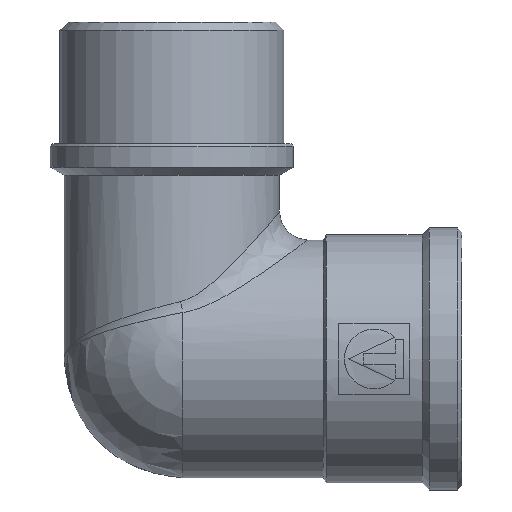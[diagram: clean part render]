
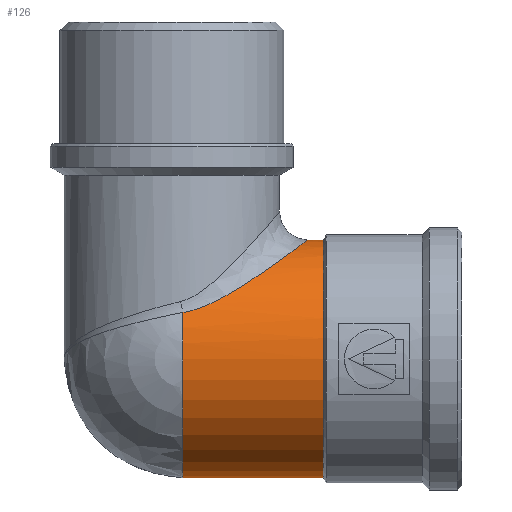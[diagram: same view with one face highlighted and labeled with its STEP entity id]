
A CAD part, left-side view. The second image highlights one B-rep face of the part: STEP entity #126.
In plain terms, the highlighted cylindrical face has radius 25.4 mm (diameter 50.8 mm), a full revolution.
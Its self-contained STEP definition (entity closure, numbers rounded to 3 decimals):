
#126=ADVANCED_FACE('',(#2551,#2553),#2555,.T.);
#2551=FACE_BOUND('',#2552,.T.);
#2552=EDGE_LOOP('',(#4147,#4148,#4149,#4150));
#2553=FACE_BOUND('',#2554,.T.);
#2554=EDGE_LOOP('',(#4151,#4152));
#2555=CYLINDRICAL_SURFACE('',#2556,25.4);
#2556=AXIS2_PLACEMENT_3D('',#2557,#2558,#2559);
#2557=CARTESIAN_POINT('',(0.,-62.,0.));
#2558=DIRECTION('',(0.,1.,0.));
#2559=DIRECTION('',(-1.,0.,0.));
#4147=ORIENTED_EDGE('',*,*,#5706,.F.);
#4148=ORIENTED_EDGE('',*,*,#5547,.F.);
#4149=ORIENTED_EDGE('',*,*,#5705,.F.);
#4150=ORIENTED_EDGE('',*,*,#5704,.F.);
#4151=ORIENTED_EDGE('',*,*,#5628,.F.);
#4152=ORIENTED_EDGE('',*,*,#5627,.F.);
#5547=EDGE_CURVE('',#6429,#6432,#6433,.T.);
#5627=EDGE_CURVE('',#6561,#6562,#6563,.T.);
#5628=EDGE_CURVE('',#6562,#6561,#6564,.T.);
#5704=EDGE_CURVE('',#6685,#6686,#6687,.F.);
#5705=EDGE_CURVE('',#6686,#6429,#6688,.T.);
#5706=EDGE_CURVE('',#6432,#6685,#6689,.T.);
#6429=VERTEX_POINT('',#9751);
#6432=VERTEX_POINT('',#9810);
#6433=B_SPLINE_CURVE_WITH_KNOTS('',3,
(#9811,#9812,#9813,#9814,#9815,#9816,#9817,#9818,#9819,#9820,#9821,#9822,#9823,#9824,
#9825,#9826,#9827,#9828,#9829,#9830,#9831,#9832,#9833,#9834,#9835,#9836,#9837,#9838,
#9839,#9840,#9841,#9842,#9843,#9844,#9845,#9846,#9847,#9848,#9849,#9850,#9851,#9852,
#9853,#9854,#9855,#9856,#9857,#9858,#9859,#9860,#9861,#9862,#9863,#9864,#9865),
.UNSPECIFIED.,.F.,.F.,
(4,1,1,1,1,1,1,1,1,1,1,1,1,1,1,1,1,1,1,1,1,1,1,1,1,1,1,1,1,1,1,1,1,1,1,1,1,1,1,1,
1,1,1,1,1,1,1,1,1,1,1,1,4),
(0.,0.001,0.003,0.004,0.007,
0.011,0.02,0.033,0.049,0.066,
0.085,0.105,0.13,0.158,0.188,
0.218,0.248,0.28,0.307,0.335,
0.358,0.382,0.404,0.426,0.446,
0.465,0.483,0.5,0.515,0.529,
0.545,0.563,0.58,0.595,0.61,
0.626,0.649,0.674,0.705,0.735,
0.767,0.797,0.826,0.85,0.872,
0.891,0.91,0.927,0.942,0.956,
0.97,0.984,1.),
.UNSPECIFIED.);
#6561=VERTEX_POINT('',#10405);
#6562=VERTEX_POINT('',#10406);
#6563=CIRCLE('',#10407,25.4);
#6564=CIRCLE('',#10411,25.4);
#6685=VERTEX_POINT('',#10926);
#6686=VERTEX_POINT('',#10927);
#6687=CIRCLE('',#10928,25.4);
#6688=CIRCLE('',#10932,25.4);
#6689=CIRCLE('',#10936,25.4);
#9751=CARTESIAN_POINT('',(-23.378,-2.4,9.931));
#9810=CARTESIAN_POINT('',(23.378,-2.4,9.931));
#9811=CARTESIAN_POINT('',(-23.378,-2.4,9.931));
#9812=CARTESIAN_POINT('',(-23.376,-2.439,9.936));
#9813=CARTESIAN_POINT('',(-23.371,-2.52,9.948));
#9814=CARTESIAN_POINT('',(-23.36,-2.649,9.972));
#9815=CARTESIAN_POINT('',(-23.348,-2.811,10.001));
#9816=CARTESIAN_POINT('',(-23.328,-3.066,10.049));
#9817=CARTESIAN_POINT('',(-23.285,-3.537,10.147));
#9818=CARTESIAN_POINT('',(-23.204,-4.295,10.332));
#9819=CARTESIAN_POINT('',(-23.062,-5.358,10.648));
#9820=CARTESIAN_POINT('',(-22.851,-6.607,11.096));
#9821=CARTESIAN_POINT('',(-22.562,-7.986,11.674));
#9822=CARTESIAN_POINT('',(-22.198,-9.422,12.355));
#9823=CARTESIAN_POINT('',(-21.718,-11.011,13.186));
#9824=CARTESIAN_POINT('',(-21.098,-12.735,14.163));
#9825=CARTESIAN_POINT('',(-20.292,-14.605,15.301));
#9826=CARTESIAN_POINT('',(-19.319,-16.507,16.518));
#9827=CARTESIAN_POINT('',(-18.176,-18.385,17.771));
#9828=CARTESIAN_POINT('',(-16.864,-20.21,19.024));
#9829=CARTESIAN_POINT('',(-15.438,-21.881,20.199));
#9830=CARTESIAN_POINT('',(-13.897,-23.403,21.287));
#9831=CARTESIAN_POINT('',(-12.375,-24.671,22.205));
#9832=CARTESIAN_POINT('',(-10.811,-25.766,23.005));
#9833=CARTESIAN_POINT('',(-9.269,-26.669,23.669));
#9834=CARTESIAN_POINT('',(-7.668,-27.434,24.234));
#9835=CARTESIAN_POINT('',(-6.07,-28.037,24.682));
#9836=CARTESIAN_POINT('',(-4.481,-28.489,25.019));
#9837=CARTESIAN_POINT('',(-2.92,-28.796,25.247));
#9838=CARTESIAN_POINT('',(-1.433,-28.965,25.374));
#9839=CARTESIAN_POINT('',(-0.05,-29.015,25.411));
#9840=CARTESIAN_POINT('',(1.21,-28.974,25.381));
#9841=CARTESIAN_POINT('',(2.464,-28.854,25.291));
#9842=CARTESIAN_POINT('',(3.762,-28.641,25.132));
#9843=CARTESIAN_POINT('',(5.111,-28.321,24.893));
#9844=CARTESIAN_POINT('',(6.383,-27.921,24.596));
#9845=CARTESIAN_POINT('',(7.564,-27.464,24.257));
#9846=CARTESIAN_POINT('',(8.681,-26.954,23.88));
#9847=CARTESIAN_POINT('',(9.928,-26.296,23.394));
#9848=CARTESIAN_POINT('',(11.347,-25.413,22.746));
#9849=CARTESIAN_POINT('',(12.959,-24.215,21.874));
#9850=CARTESIAN_POINT('',(14.568,-22.777,20.838));
#9851=CARTESIAN_POINT('',(16.123,-21.114,19.657));
#9852=CARTESIAN_POINT('',(17.516,-19.344,18.425));
#9853=CARTESIAN_POINT('',(18.737,-17.499,17.175));
#9854=CARTESIAN_POINT('',(19.737,-15.719,16.009));
#9855=CARTESIAN_POINT('',(20.528,-14.073,14.974));
#9856=CARTESIAN_POINT('',(21.151,-12.575,14.076));
#9857=CARTESIAN_POINT('',(21.661,-11.167,13.275));
#9858=CARTESIAN_POINT('',(22.084,-9.816,12.556));
#9859=CARTESIAN_POINT('',(22.429,-8.532,11.927));
#9860=CARTESIAN_POINT('',(22.7,-7.346,11.4));
#9861=CARTESIAN_POINT('',(22.923,-6.197,10.945));
#9862=CARTESIAN_POINT('',(23.111,-5.031,10.541));
#9863=CARTESIAN_POINT('',(23.266,-3.76,10.194));
#9864=CARTESIAN_POINT('',(23.354,-2.87,9.988));
#9865=CARTESIAN_POINT('',(23.378,-2.4,9.931));
#10405=CARTESIAN_POINT('',(25.4,-32.365,0.));
#10406=CARTESIAN_POINT('',(-25.4,-32.365,0.));
#10407=AXIS2_PLACEMENT_3D('',#10408,#10409,#10410);
#10408=CARTESIAN_POINT('',(0.,-32.365,0.));
#10409=DIRECTION('',(0.,-1.,0.));
#10410=DIRECTION('',(1.,0.,0.));
#10411=AXIS2_PLACEMENT_3D('',#10412,#10413,#10414);
#10412=CARTESIAN_POINT('',(0.,-32.365,0.));
#10413=DIRECTION('',(0.,-1.,0.));
#10414=DIRECTION('',(-1.,0.,0.));
#10926=CARTESIAN_POINT('',(25.4,-2.4,0.));
#10927=CARTESIAN_POINT('',(-25.4,-2.4,0.));
#10928=AXIS2_PLACEMENT_3D('',#10929,#10930,#10931);
#10929=CARTESIAN_POINT('',(0.,-2.4,0.));
#10930=DIRECTION('',(0.,-1.,0.));
#10931=DIRECTION('',(-1.,0.,0.));
#10932=AXIS2_PLACEMENT_3D('',#10933,#10934,#10935);
#10933=CARTESIAN_POINT('',(0.,-2.4,0.));
#10934=DIRECTION('',(0.,1.,0.));
#10935=DIRECTION('',(-1.,0.,0.));
#10936=AXIS2_PLACEMENT_3D('',#10937,#10938,#10939);
#10937=CARTESIAN_POINT('',(0.,-2.4,0.));
#10938=DIRECTION('',(0.,1.,0.));
#10939=DIRECTION('',(0.92,0.,0.391));
